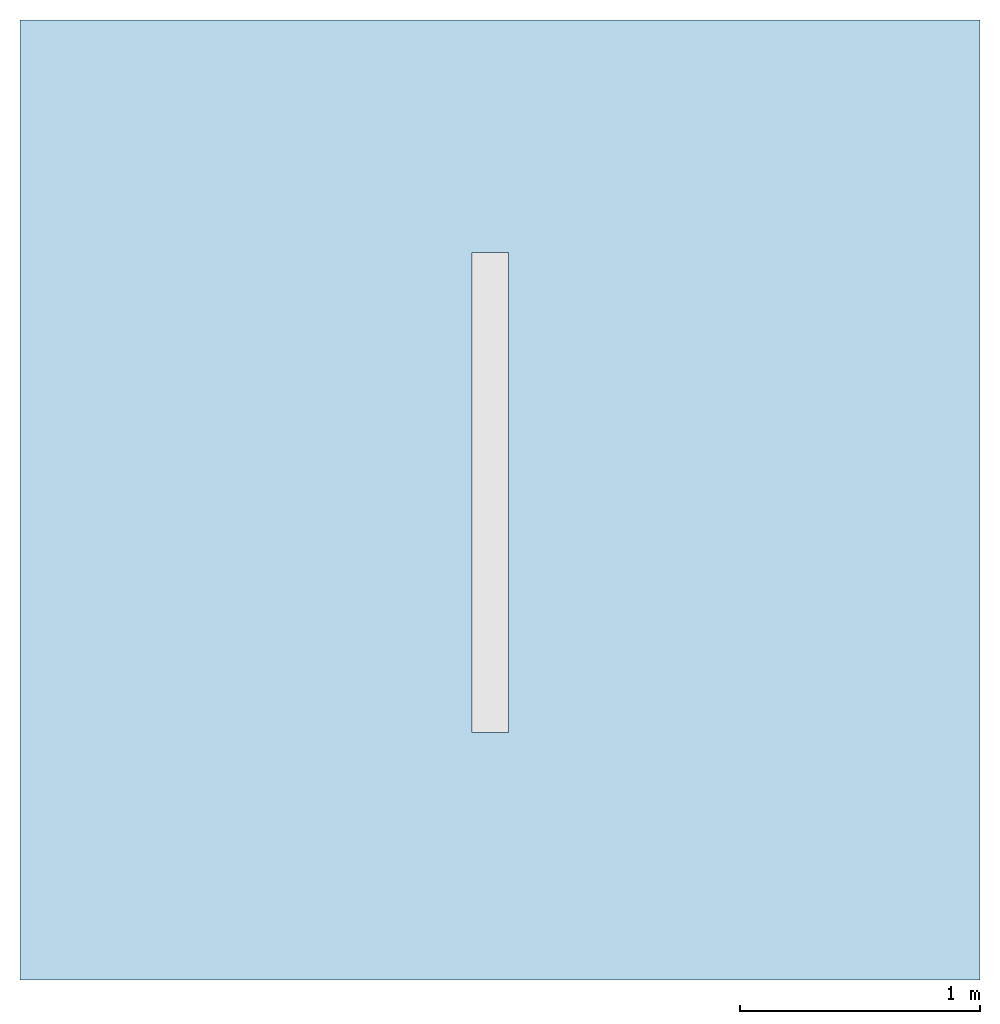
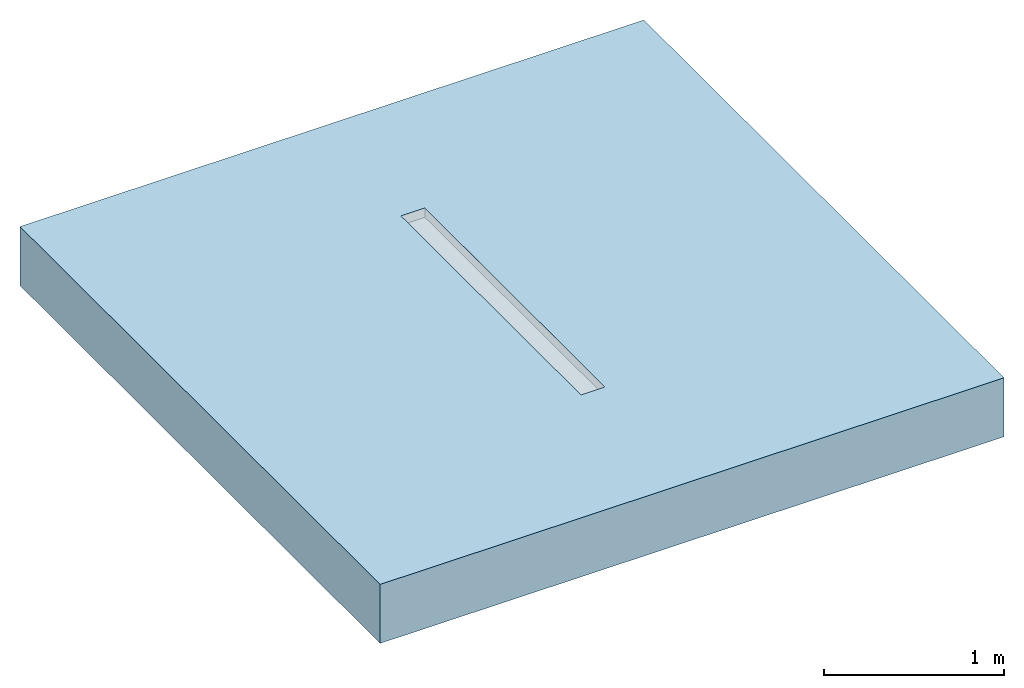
# One storey, part 1 of 2: 1 slab, 1 opening.
"""IFC2X3 building model written with IfcOpenShell, lengths in millimetres."""

from ifc_helpers import new_model, entity, si_unit, converted_unit, direction, frame, frame_2d, origin, origin_2d_with_axis, place, context, subcontext, project, spatial, rectangle, extrude, material, layer, layer_set, layer_usage, element, save


model = new_model("IFC2X3")

# Units and contexts
model_context = context("Model", 3, precision=1e-06, world=origin(), true_north=direction((2.0, 6.12303176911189e-17, 1.0)))
context_of_model = context(None, 3, precision=1e-06, world=origin(), true_north=direction((2.0, 6.12303176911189e-17, 1.0)))
body_context = subcontext(model_context, "Body", "Model", "MODEL_VIEW")
ifc_project = project(units=[si_unit("LENGTHUNIT", "METRE", prefix="MILLI"), si_unit("AREAUNIT", "SQUARE_METRE", prefix="MILLI"), si_unit("VOLUMEUNIT", "CUBIC_METRE", prefix="MILLI"), converted_unit("PLANEANGLEUNIT", "DEGREE", entity("IfcRatioMeasure", 0.0174532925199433), si_unit("PLANEANGLEUNIT", "RADIAN"), dimensions=[0, 0, 0, 0, 0, 0, 0]), si_unit("TIMEUNIT", "SECOND")], contexts=[model_context, context_of_model])

# Site, building, storey
site_placement = place(None, origin())
site = spatial("IfcSite", under=ifc_project, at=site_placement, Name="Default", CompositionType="ELEMENT")
building_placement = place(site_placement, origin())
building = spatial("IfcBuilding", under=site, at=building_placement, CompositionType="ELEMENT")
storey_placement = place(building_placement, origin())
storey = spatial("IfcBuildingStorey", under=building, at=storey_placement, Name="Level 1", CompositionType="ELEMENT", Elevation=0.0)

# Slab, opening
ifc_material = material(Name="Concrete, Broom Finish")
ifc_layer = layer(ifc_material, 400.0)
ifc_layer_set = layer_set([ifc_layer], Name="Floor:Generic Floor - 400mm")
ifc_layer_usage = layer_usage(ifc_layer_set, "AXIS3", "POSITIVE", 0.0)
slab_placement = place(storey_placement, origin())
slab = element("IfcSlab", 1, at=slab_placement, inside=storey, material=ifc_layer_usage, Name="Floor:Generic Floor - 400mm", ObjectType="Floor:Generic Floor - 400mm", PredefinedType="FLOOR", context=body_context, shape_type="SweptSolid", body=[
    extrude(rectangle(XDim=4000.0, YDim=4000.0, at=frame_2d((0.0, 0.0), x_axis=(0.0, -1.0))), frame((-42.176138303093, 0.318612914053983, 0.0), z_axis=(0.0, 0.0, -1.0), x_axis=(-1.0, 0.0, 0.0)), (0.0, 0.0, 1.0), 400.0),
])
opening_placement = place(slab_placement, origin())
element("IfcOpeningElement", 2, at=opening_placement, cuts=slab, ObjectType="Recess", context=body_context, shape_type="SweptSolid", body=[
    extrude(rectangle(XDim=2000.0, YDim=152.999917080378, at=origin_2d_with_axis()), frame((-82.2883286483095, 32.0494985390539, -62.8000000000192), z_axis=(0.0, 0.0, 1.0), x_axis=(0.0, 1.0, 0.0)), (0.0, 0.0, 1.0), 62.8000000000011),
])

save(model, "model.ifc")
